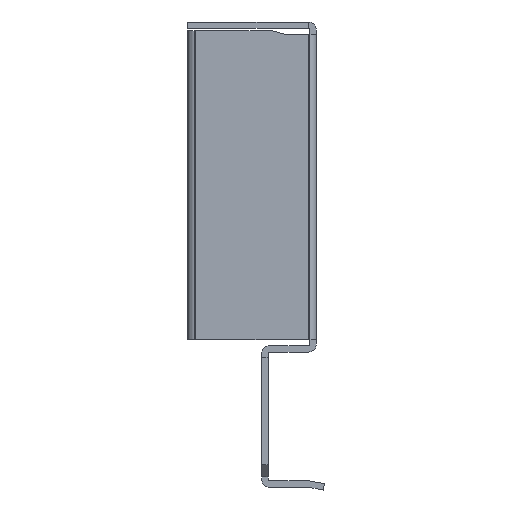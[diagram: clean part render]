
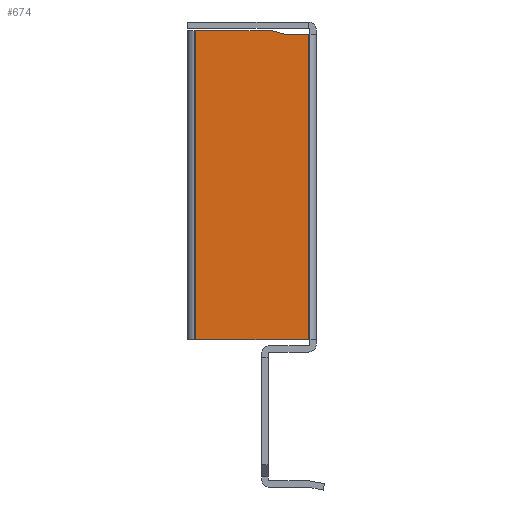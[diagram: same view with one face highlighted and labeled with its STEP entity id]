
A CAD part, left-side view. The second image highlights one B-rep face of the part: STEP entity #674.
In plain terms, the highlighted planar face has unit normal (-1, 0, 0).
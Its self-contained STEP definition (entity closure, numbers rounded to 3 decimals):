
#24 = VERTEX_POINT ( 'NONE', #457 ) ;
#49 = VERTEX_POINT ( 'NONE', #448 ) ;
#104 = VERTEX_POINT ( 'NONE', #432 ) ;
#129 = DIRECTION ( 'NONE',  ( 0., -1., 0. ) ) ;
#131 = DIRECTION ( 'NONE',  ( -1., 0., 0. ) ) ;
#132 = CARTESIAN_POINT ( 'NONE',  ( -230., -5., 74.385 ) ) ;
#133 = PLANE ( 'NONE',  #2110 ) ;
#167 = VERTEX_POINT ( 'NONE', #413 ) ;
#182 = VERTEX_POINT ( 'NONE', #408 ) ;
#188 = VERTEX_POINT ( 'NONE', #406 ) ;
#406 = CARTESIAN_POINT ( 'NONE',  ( -230., -0.507, 55.9 ) ) ;
#408 = CARTESIAN_POINT ( 'NONE',  ( -230., 9., 17.5 ) ) ;
#413 = CARTESIAN_POINT ( 'NONE',  ( -230., -5., 17.5 ) ) ;
#432 = CARTESIAN_POINT ( 'NONE',  ( -230., 9., 55.9 ) ) ;
#448 = CARTESIAN_POINT ( 'NONE',  ( -230., -2., 55.5 ) ) ;
#457 = CARTESIAN_POINT ( 'NONE',  ( -230., -5., 55.5 ) ) ;
#674 = ADVANCED_FACE ( 'NONE', ( #1400 ), #133, .T. ) ;
#878 = EDGE_LOOP ( 'NONE', ( #1256, #1257, #1258, #1259, #1260, #1261 ) ) ;
#1256 = ORIENTED_EDGE ( 'NONE', *, *, #1898, .F. ) ;
#1257 = ORIENTED_EDGE ( 'NONE', *, *, #1899, .F. ) ;
#1258 = ORIENTED_EDGE ( 'NONE', *, *, #1889, .T. ) ;
#1259 = ORIENTED_EDGE ( 'NONE', *, *, #1897, .T. ) ;
#1260 = ORIENTED_EDGE ( 'NONE', *, *, #1881, .F. ) ;
#1261 = ORIENTED_EDGE ( 'NONE', *, *, #1900, .F. ) ;
#1400 = FACE_OUTER_BOUND ( 'NONE', #878, .T. ) ;
#1497 = LINE ( 'NONE', #2397, #1498 ) ;
#1498 = VECTOR ( 'NONE', #2396, 1000. ) ;
#1509 = LINE ( 'NONE', #2371, #1511 ) ;
#1511 = VECTOR ( 'NONE', #2370, 1000. ) ;
#1524 = LINE ( 'NONE', #2347, #1525 ) ;
#1525 = VECTOR ( 'NONE', #2345, 1000. ) ;
#1526 = LINE ( 'NONE', #2344, #1527 ) ;
#1527 = VECTOR ( 'NONE', #2343, 1000. ) ;
#1528 = LINE ( 'NONE', #2340, #1529 ) ;
#1529 = VECTOR ( 'NONE', #2339, 1000. ) ;
#1530 = LINE ( 'NONE', #2338, #1531 ) ;
#1531 = VECTOR ( 'NONE', #2337, 1000. ) ;
#1881 = EDGE_CURVE ( 'NONE', #167, #182, #1497, .T. ) ;
#1889 = EDGE_CURVE ( 'NONE', #188, #104, #1509, .T. ) ;
#1897 = EDGE_CURVE ( 'NONE', #104, #182, #1524, .T. ) ;
#1898 = EDGE_CURVE ( 'NONE', #49, #24, #1526, .T. ) ;
#1899 = EDGE_CURVE ( 'NONE', #188, #49, #1528, .T. ) ;
#1900 = EDGE_CURVE ( 'NONE', #24, #167, #1530, .T. ) ;
#2110 = AXIS2_PLACEMENT_3D ( 'NONE', #132, #131, #129 ) ;
#2337 = DIRECTION ( 'NONE',  ( 0., 0., -1. ) ) ;
#2338 = CARTESIAN_POINT ( 'NONE',  ( -230., -5., 74.385 ) ) ;
#2339 = DIRECTION ( 'NONE',  ( 0., -0.966, -0.259 ) ) ;
#2340 = CARTESIAN_POINT ( 'NONE',  ( -230., 0.612, 56.2 ) ) ;
#2343 = DIRECTION ( 'NONE',  ( 0., -1., 0. ) ) ;
#2344 = CARTESIAN_POINT ( 'NONE',  ( -230., -2., 55.5 ) ) ;
#2345 = DIRECTION ( 'NONE',  ( 0., 0., -1. ) ) ;
#2347 = CARTESIAN_POINT ( 'NONE',  ( -230., 9., 74.385 ) ) ;
#2370 = DIRECTION ( 'NONE',  ( 0., 1., 0. ) ) ;
#2371 = CARTESIAN_POINT ( 'NONE',  ( -230., -5., 55.9 ) ) ;
#2396 = DIRECTION ( 'NONE',  ( 0., 1., 0. ) ) ;
#2397 = CARTESIAN_POINT ( 'NONE',  ( -230., -5., 17.5 ) ) ;
